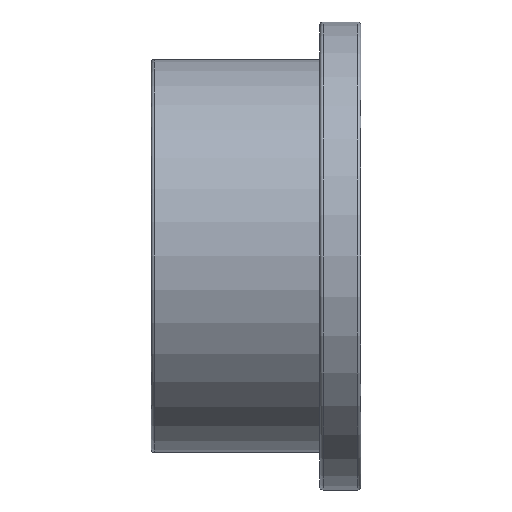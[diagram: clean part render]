
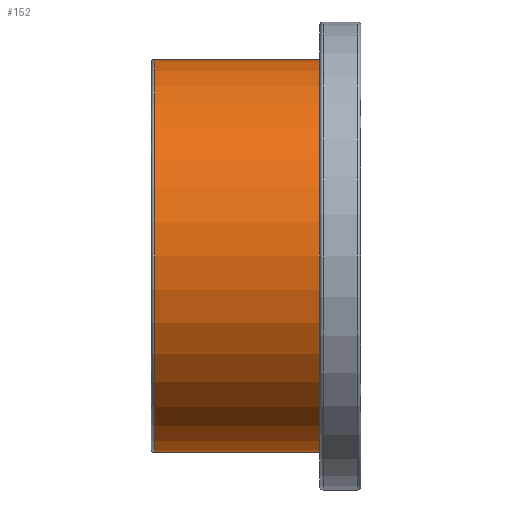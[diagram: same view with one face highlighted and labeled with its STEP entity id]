
A CAD part, front view. The second image highlights one B-rep face of the part: STEP entity #152.
In plain terms, the highlighted cylindrical face has radius 52.5 mm (diameter 105 mm), a full revolution.
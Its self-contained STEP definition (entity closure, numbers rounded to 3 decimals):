
#21=CYLINDRICAL_SURFACE('',#176,52.5);
#30=FACE_BOUND('',#64,.T.);
#43=FACE_OUTER_BOUND('',#63,.T.);
#63=EDGE_LOOP('',(#128));
#64=EDGE_LOOP('',(#129));
#78=CIRCLE('',#166,52.5);
#83=CIRCLE('',#175,52.5);
#91=VERTEX_POINT('',#250);
#96=VERTEX_POINT('',#264);
#104=EDGE_CURVE('',#91,#91,#78,.T.);
#109=EDGE_CURVE('',#96,#96,#83,.T.);
#128=ORIENTED_EDGE('',*,*,#104,.T.);
#129=ORIENTED_EDGE('',*,*,#109,.F.);
#152=ADVANCED_FACE('',(#43,#30),#21,.T.);
#166=AXIS2_PLACEMENT_3D('',#251,#200,#201);
#175=AXIS2_PLACEMENT_3D('',#265,#218,#219);
#176=AXIS2_PLACEMENT_3D('',#266,#220,#221);
#200=DIRECTION('center_axis',(-1.,0.,0.));
#201=DIRECTION('ref_axis',(0.,0.,1.));
#218=DIRECTION('center_axis',(-1.,0.,0.));
#219=DIRECTION('ref_axis',(0.,1.,0.));
#220=DIRECTION('center_axis',(-1.,0.,0.));
#221=DIRECTION('ref_axis',(0.,-1.,0.));
#250=CARTESIAN_POINT('',(45.,-52.5,0.));
#251=CARTESIAN_POINT('Origin',(45.,0.,0.));
#264=CARTESIAN_POINT('',(0.9,-52.5,0.));
#265=CARTESIAN_POINT('Origin',(0.9,0.,0.));
#266=CARTESIAN_POINT('Origin',(22.5,0.,0.));
